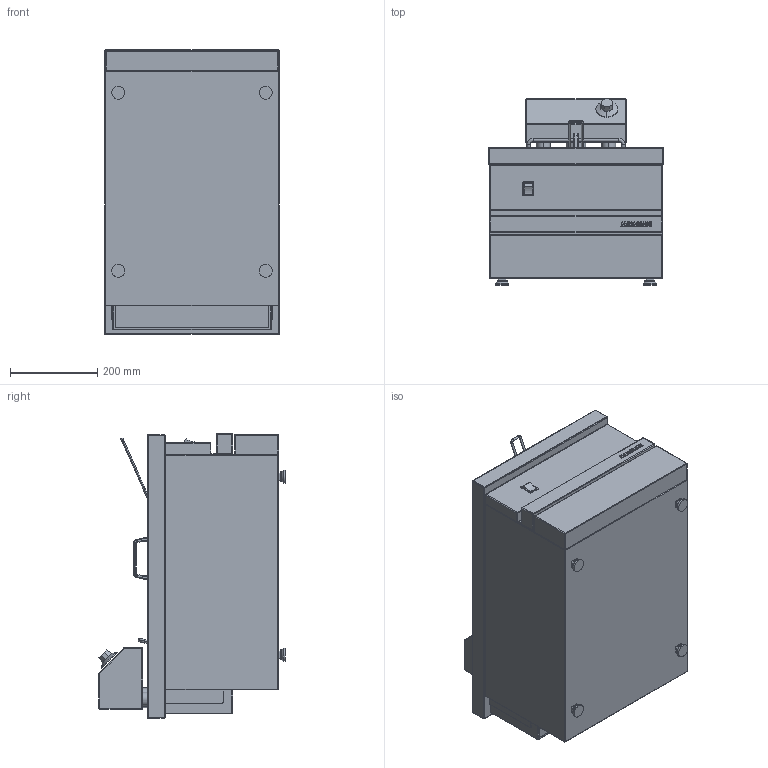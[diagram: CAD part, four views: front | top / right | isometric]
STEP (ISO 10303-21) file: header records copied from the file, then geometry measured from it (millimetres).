
FILE_DESCRIPTION((''),'2;1');
FILE_NAME('CSE418FRI_EXPORT_STEP_ASM','2017-11-22T',('r.avril'),(''),'PRO/ENGINEER BY PARAMETRIC TECHNOLOGY CORPORATION, 2014200','PRO/ENGINEER BY PARAMETRIC TECHNOLOGY CORPORATION, 2014200','');
FILE_SCHEMA(('AP203_CONFIGURATION_CONTROLLED_3D_DESIGN_OF_MECHANICAL_PARTS_AND_ASSEMBLIES_MIM_LF { 1 0 10303 403 2 1 2 }'));
Length unit declared in the file: millimetre
Products named in the file (6): SNACKS_AMB_400_EXPORT_STEP; TABLE_CSE_418_FR; MANETTE_FRITEUSE_EXPORT_STEP; TABLE_CSE_418_FR_ASM; BASCULEUR_AMB_EXPORT_DXF; CSE418FRI_EXPORT_STEP_ASM
Assembly tree (5 placements, depth 3):
  CSE418FRI_EXPORT_STEP_ASM
    SNACKS_AMB_400_EXPORT_STEP
    TABLE_CSE_418_FR_ASM
      TABLE_CSE_418_FR
      MANETTE_FRITEUSE_EXPORT_STEP
    BASCULEUR_AMB_EXPORT_DXF
Bounding box: 400 x 426.53 x 652.1 mm (x, y, z)
Volume: 26402385.4 mm3; surface area: 3139088 mm2
Topology: 10 solids, 28 shells, 628 faces, 2084 edges, 1745 vertices
Faces by surface type: cylinder 244, plane 214, sphere 58, bspline 58, torus 36, cone 18
Entity records: 29753 total; most frequent: CARTESIAN_POINT 9567, DIRECTION 3404, ORIENTED_EDGE 3191, EDGE_CURVE 1820, VERTEX_POINT 1245, AXIS2_PLACEMENT_3D 1190, VECTOR 1006, LINE 1006
